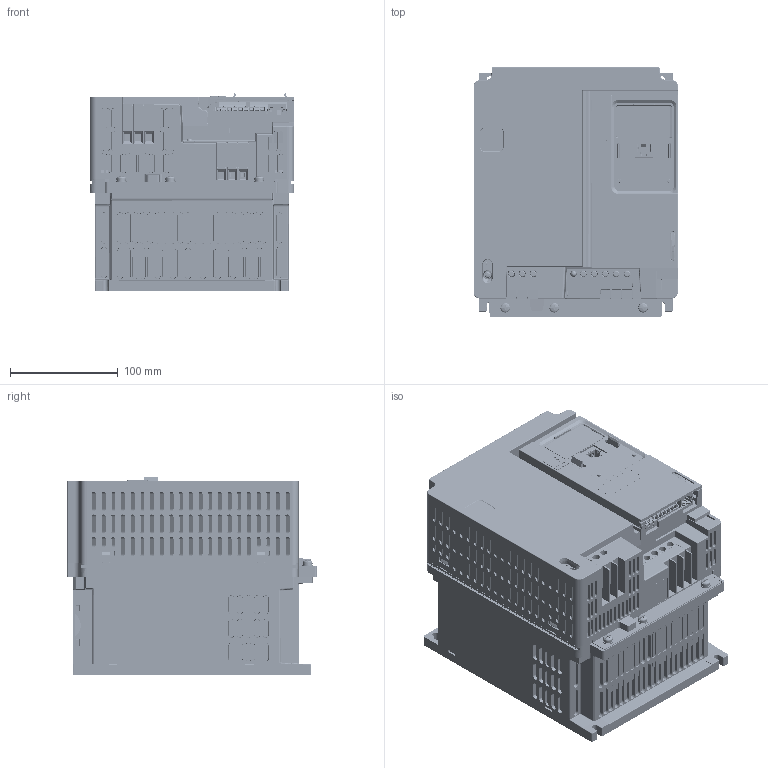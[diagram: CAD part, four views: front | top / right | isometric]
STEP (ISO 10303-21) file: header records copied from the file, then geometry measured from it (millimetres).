
FILE_DESCRIPTION(/* description */ (''),/* implementation_level */ '2;1');
FILE_NAME(/* name */ 'ATH600_S2B_IP00_3Dsimpl.stp',/* time_stamp */ '2026-02-03T15:06:43+01:00',/* author */ (''),/* organization */ (''),/* preprocessor_version */ 'ST-DEVELOPER v16.7',/* originating_system */ 'SIEMENS PLM Software NX 12.0',/* authorisation */ '');
FILE_SCHEMA (('AUTOMOTIVE_DESIGN { 1 0 10303 214 3 1 1 1 }'));
Products named in the file (1): ATH600_S2B_IP00_3Dsimpl_step
Bounding box: 190.5 x 232 x 183.34 mm (x, y, z)
Volume: 6229690.2 mm3; surface area: 527030.5 mm2
Topology: 5 solids, 36 shells, 7115 faces, 19004 edges, 12311 vertices
Faces by surface type: plane 4658, cylinder 1232, cone 652, bspline 425, torus 85, sphere 63
Entity records: 255475 total; most frequent: CARTESIAN_POINT 80342, ORIENTED_EDGE 37878, DIRECTION 33961, EDGE_CURVE 18939, LINE 13399, VECTOR 13399, VERTEX_POINT 12295, AXIS2_PLACEMENT_3D 10281
